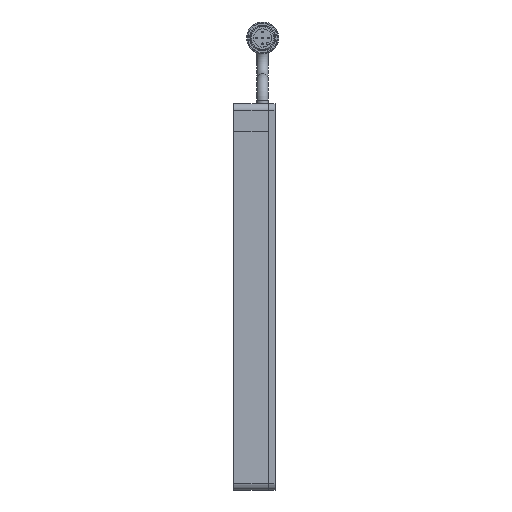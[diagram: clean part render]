
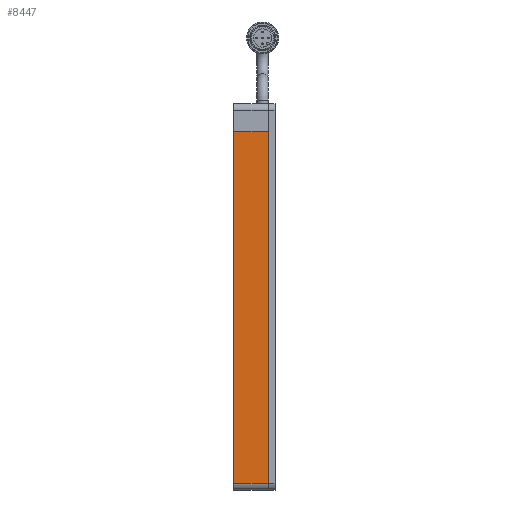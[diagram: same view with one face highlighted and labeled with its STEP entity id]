
A CAD part, left-side view. The second image highlights one B-rep face of the part: STEP entity #8447.
In plain terms, the highlighted planar face has unit normal (-1, 0, 0) as drawn and (0, 0, -1) by its records, which use the part's own axes.
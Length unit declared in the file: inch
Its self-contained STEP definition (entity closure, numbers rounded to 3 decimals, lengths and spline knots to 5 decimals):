
#10 = CARTESIAN_POINT ( 'NONE',  ( 3.375, 0.3125, -0.25 ) ) ;
#560 = CARTESIAN_POINT ( 'NONE',  ( 3.375, -0.3125, -0.25 ) ) ;
#720 = LINE ( 'NONE', #12250, #4719 ) ;
#1129 = DIRECTION ( 'NONE',  ( 1., 0., 0. ) ) ;
#1326 = FACE_OUTER_BOUND ( 'NONE', #3225, .T. ) ;
#1502 = VERTEX_POINT ( 'NONE', #7762 ) ;
#2080 = ORIENTED_EDGE ( 'NONE', *, *, #8715, .F. ) ;
#2743 = LINE ( 'NONE', #7432, #9214 ) ;
#3093 = DIRECTION ( 'NONE',  ( 0., -1., 0. ) ) ;
#3107 = LINE ( 'NONE', #8731, #12246 ) ;
#3134 = CARTESIAN_POINT ( 'NONE',  ( -3.5, 0.3125, -0.25 ) ) ;
#3225 = EDGE_LOOP ( 'NONE', ( #2080, #9422, #8035, #3518 ) ) ;
#3335 = VECTOR ( 'NONE', #3093, 39.37008 ) ;
#3472 = DIRECTION ( 'NONE',  ( 0., 1., 0. ) ) ;
#3518 = ORIENTED_EDGE ( 'NONE', *, *, #3782, .T. ) ;
#3782 = EDGE_CURVE ( 'NONE', #1502, #9990, #2743, .T. ) ;
#4651 = CARTESIAN_POINT ( 'NONE',  ( -3., 0.3125, -0.25 ) ) ;
#4719 = VECTOR ( 'NONE', #9283, 39.37008 ) ;
#5161 = PLANE ( 'NONE',  #8131 ) ;
#6756 = LINE ( 'NONE', #10, #3335 ) ;
#7432 = CARTESIAN_POINT ( 'NONE',  ( -3., -0.3125, -0.25 ) ) ;
#7762 = CARTESIAN_POINT ( 'NONE',  ( -3., -0.3125, -0.25 ) ) ;
#8035 = ORIENTED_EDGE ( 'NONE', *, *, #12144, .T. ) ;
#8131 = AXIS2_PLACEMENT_3D ( 'NONE', #3134, #11059, #1129 ) ;
#8447 = ADVANCED_FACE ( 'NONE', ( #1326 ), #5161, .F. ) ;
#8715 = EDGE_CURVE ( 'NONE', #9677, #9990, #720, .T. ) ;
#8731 = CARTESIAN_POINT ( 'NONE',  ( -3.5, -0.3125, -0.25 ) ) ;
#9214 = VECTOR ( 'NONE', #3472, 39.37008 ) ;
#9283 = DIRECTION ( 'NONE',  ( -1., 0., 0. ) ) ;
#9422 = ORIENTED_EDGE ( 'NONE', *, *, #12561, .T. ) ;
#9677 = VERTEX_POINT ( 'NONE', #9837 ) ;
#9678 = DIRECTION ( 'NONE',  ( -1., 0., 0. ) ) ;
#9837 = CARTESIAN_POINT ( 'NONE',  ( 3.375, 0.3125, -0.25 ) ) ;
#9952 = VERTEX_POINT ( 'NONE', #560 ) ;
#9990 = VERTEX_POINT ( 'NONE', #4651 ) ;
#11059 = DIRECTION ( 'NONE',  ( 0., 0., 1. ) ) ;
#12144 = EDGE_CURVE ( 'NONE', #9952, #1502, #3107, .T. ) ;
#12246 = VECTOR ( 'NONE', #9678, 39.37008 ) ;
#12250 = CARTESIAN_POINT ( 'NONE',  ( -3.5, 0.3125, -0.25 ) ) ;
#12561 = EDGE_CURVE ( 'NONE', #9677, #9952, #6756, .T. ) ;
